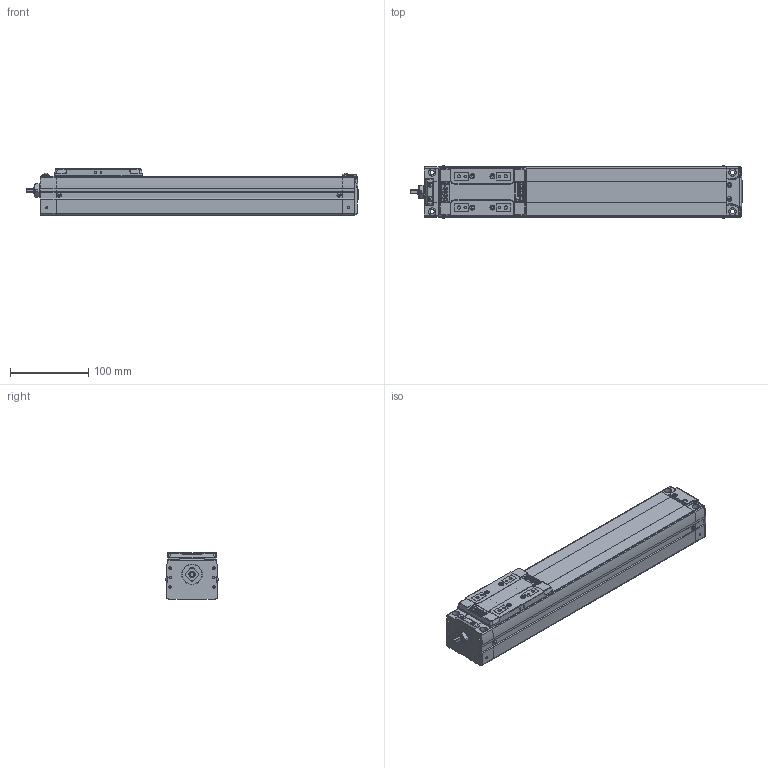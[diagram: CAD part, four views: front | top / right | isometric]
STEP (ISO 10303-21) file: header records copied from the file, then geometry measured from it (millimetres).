
FILE_DESCRIPTION(('STEP AP214'),'1');
FILE_NAME('Z:/Web/3D/SAN65/STP/SAN65ㅁㅁ-250.stp','2012-06-14T04:28:15',(' '),(' '),'Spatial InterOp 3D',' ',' ');
FILE_SCHEMA(('automotive_design'));
Length unit declared in the file: metre
Products named in the file (27): SAN65__-250; BODY-SAN65; REAR-SAN65; RRCV-SAN65; 스크루 : Round - M3.0 x 6.0; FRONT-SAN65; SHAFT-SAN65; RN8 x 0.75; SSFX-SAN65; SLIDE-SAN65; SLCV-SAN65; 스크루 : Countersunk - M3.0 x 6.0
Assembly tree (26 placements, depth 3):
  SAN65__-250
    BODY-SAN65
    REAR-SAN65
      REAR-SAN65
      RRCV-SAN65
      스크루 : Round - M3.0 x 6.0
      스크루 : Round - M3.0 x 6.0
      스크루 : Round - M3.0 x 6.0
      스크루 : Round - M3.0 x 6.0
      스크루 : Round - M3.0 x 6.0
      스크루 : Round - M3.0 x 6.0
    FRONT-SAN65
      FRONT-SAN65
      SHAFT-SAN65
      RN8 x 0.75
      SSFX-SAN65
      스크루 : Round - M3.0 x 6.0
      스크루 : Round - M3.0 x 6.0
      스크루 : Round - M3.0 x 6.0
      스크루 : Round - M3.0 x 6.0
    SLIDE-SAN65
      SLIDE-SAN65
      SLCV-SAN65
      스크루 : Countersunk - M3.0 x 6.0
      스크루 : Countersunk - M3.0 x 6.0
      스크루 : Countersunk - M3.0 x 6.0
      스크루 : Countersunk - M3.0 x 6.0
Bounding box: 424.65 x 67.13 x 60 mm (x, y, z)
Volume: 1314954.5 mm3; surface area: 171117.2 mm2
Topology: 23 solids, 23 shells, 1380 faces, 3567 edges, 2324 vertices
Faces by surface type: plane 842, cylinder 399, cone 73, bspline 26, sphere 22, torus 15, extrusion 3
Full cylindrical faces by diameter (mm): 0.571 x2, 0.706 x1, 1.727 x2, 2.132 x1, 2.2 x4, 2.5 x9, 2.528 x4, 3 x6, 3.121 x2, 3.3 x4, 3.4 x4, 3.5 x6, 4.2 x24, 4.849 x4, 5 x3, 5.5 x4, 5.987 x2, 6 x6, 7 x1, 8 x4, 9.5 x4, 13 x1, 15 x1, 19 x1
Entity records: 56633 total; most frequent: CARTESIAN_POINT 11661, DIRECTION 6969, ORIENTED_EDGE 6624, EDGE_CURVE 3312, AXIS2_PLACEMENT_3D 2354, VERTEX_POINT 2274, VECTOR 2261, LINE 2258
